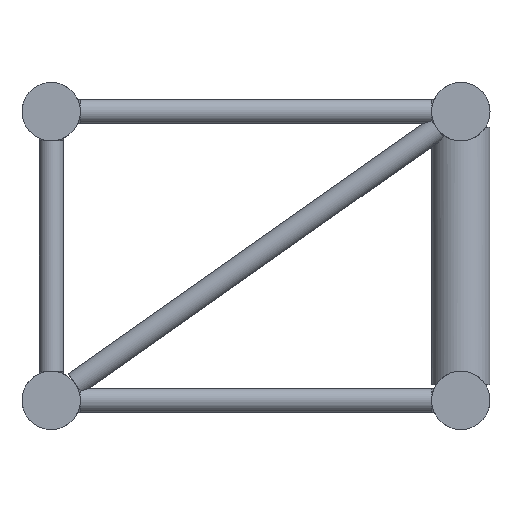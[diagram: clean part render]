
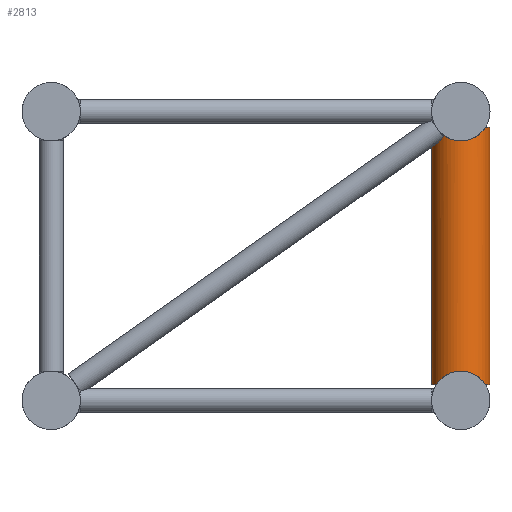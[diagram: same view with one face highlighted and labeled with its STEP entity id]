
A CAD part, left-side view. The second image highlights one B-rep face of the part: STEP entity #2813.
In plain terms, the highlighted cylindrical face has radius 24.15 mm (diameter 48.3 mm), a full revolution.
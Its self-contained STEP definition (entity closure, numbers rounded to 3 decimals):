
#271=FACE_BOUND('',#684,.T.);
#481=FACE_OUTER_BOUND('',#683,.T.);
#683=EDGE_LOOP('',(#2108,#2109,#2110,#2111,#2112,#2113));
#684=EDGE_LOOP('',(#2114,#2115,#2116,#2117));
#946=CIRCLE('',#2970,24.15);
#985=CIRCLE('',#3093,24.15);
#986=CIRCLE('',#3095,24.15);
#987=CIRCLE('',#3097,24.15);
#1056=ELLIPSE('',#2947,41.912,24.15);
#1076=ELLIPSE('',#2988,34.153,24.15);
#1077=ELLIPSE('',#2989,34.153,24.15);
#1094=ELLIPSE('',#3099,34.153,24.15);
#1095=ELLIPSE('',#3100,34.153,24.15);
#1122=B_SPLINE_CURVE_WITH_KNOTS('',3,(#4191,#4192,#4193,#4194,#4195,#4196,
#4197,#4198,#4199,#4200,#4201,#4202,#4203,#4204,#4205,#4206,#4207,#4208,
#4209,#4210,#4211,#4212),.UNSPECIFIED.,.F.,.F.,(4,2,2,2,2,2,2,2,2,2,4),
(1.619,2.098,2.448,2.797,2.963,
3.129,3.294,3.46,3.868,4.276,
4.635),.UNSPECIFIED.);
#1230=VERTEX_POINT('',#4168);
#1231=VERTEX_POINT('',#4169);
#1239=VERTEX_POINT('',#4189);
#1249=VERTEX_POINT('',#4249);
#1280=VERTEX_POINT('',#4677);
#1281=VERTEX_POINT('',#4679);
#1330=VERTEX_POINT('',#4859);
#1331=VERTEX_POINT('',#4860);
#1332=VERTEX_POINT('',#4864);
#1333=VERTEX_POINT('',#4865);
#1498=EDGE_CURVE('',#1230,#1231,#1056,.T.);
#1507=EDGE_CURVE('',#1231,#1239,#1122,.T.);
#1525=EDGE_CURVE('',#1249,#1239,#946,.T.);
#1558=EDGE_CURVE('',#1230,#1280,#1076,.T.);
#1560=EDGE_CURVE('',#1281,#1249,#1077,.T.);
#1640=EDGE_CURVE('',#1330,#1331,#985,.T.);
#1642=EDGE_CURVE('',#1332,#1333,#986,.T.);
#1643=EDGE_CURVE('',#1280,#1281,#987,.T.);
#1644=EDGE_CURVE('',#1333,#1330,#1094,.T.);
#1645=EDGE_CURVE('',#1331,#1332,#1095,.T.);
#2108=ORIENTED_EDGE('',*,*,#1507,.T.);
#2109=ORIENTED_EDGE('',*,*,#1525,.F.);
#2110=ORIENTED_EDGE('',*,*,#1560,.F.);
#2111=ORIENTED_EDGE('',*,*,#1643,.F.);
#2112=ORIENTED_EDGE('',*,*,#1558,.F.);
#2113=ORIENTED_EDGE('',*,*,#1498,.T.);
#2114=ORIENTED_EDGE('',*,*,#1644,.F.);
#2115=ORIENTED_EDGE('',*,*,#1642,.F.);
#2116=ORIENTED_EDGE('',*,*,#1645,.F.);
#2117=ORIENTED_EDGE('',*,*,#1640,.F.);
#2526=CYLINDRICAL_SURFACE('',#3098,24.15);
#2813=ADVANCED_FACE('',(#481,#271),#2526,.T.);
#2947=AXIS2_PLACEMENT_3D('',#4170,#3354,#3355);
#2970=AXIS2_PLACEMENT_3D('',#4251,#3408,#3409);
#2988=AXIS2_PLACEMENT_3D('',#4678,#3452,#3453);
#2989=AXIS2_PLACEMENT_3D('',#4681,#3455,#3456);
#3093=AXIS2_PLACEMENT_3D('',#4862,#3690,#3691);
#3095=AXIS2_PLACEMENT_3D('',#4867,#3695,#3696);
#3097=AXIS2_PLACEMENT_3D('',#4869,#3699,#3700);
#3098=AXIS2_PLACEMENT_3D('',#4870,#3701,#3702);
#3099=AXIS2_PLACEMENT_3D('',#4871,#3703,#3704);
#3100=AXIS2_PLACEMENT_3D('',#4872,#3705,#3706);
#3354=DIRECTION('center_axis',(0.,-0.817,
0.576));
#3355=DIRECTION('ref_axis',(0.,-0.576,-0.817));
#3408=DIRECTION('center_axis',(0.,0.,1.));
#3409=DIRECTION('ref_axis',(-1.,0.,0.));
#3452=DIRECTION('center_axis',(-0.707,0.,0.707));
#3453=DIRECTION('ref_axis',(-0.707,0.,-0.707));
#3455=DIRECTION('center_axis',(0.707,0.,0.707));
#3456=DIRECTION('ref_axis',(-0.707,0.,0.707));
#3690=DIRECTION('center_axis',(0.,0.,-1.));
#3691=DIRECTION('ref_axis',(-1.,0.,0.));
#3695=DIRECTION('center_axis',(0.,0.,-1.));
#3696=DIRECTION('ref_axis',(-1.,0.,0.));
#3699=DIRECTION('center_axis',(0.,0.,1.));
#3700=DIRECTION('ref_axis',(-1.,0.,0.));
#3701=DIRECTION('center_axis',(0.,0.,1.));
#3702=DIRECTION('ref_axis',(-1.,0.,0.));
#3703=DIRECTION('center_axis',(0.707,0.,-0.707));
#3704=DIRECTION('ref_axis',(-0.707,0.,-0.707));
#3705=DIRECTION('center_axis',(-0.707,0.,-0.707));
#3706=DIRECTION('ref_axis',(-0.707,0.,0.707));
#4168=CARTESIAN_POINT('',(57.303,17.304,-16.847));
#4169=CARTESIAN_POINT('',(54.872,14.545,-20.759));
#4170=CARTESIAN_POINT('Origin',(74.15,0.,-41.39));
#4189=CARTESIAN_POINT('',(69.566,23.711,-13.15));
#4191=CARTESIAN_POINT('Ctrl Pts',(54.872,14.545,-20.759));
#4192=CARTESIAN_POINT('Ctrl Pts',(55.539,15.43,-21.871));
#4193=CARTESIAN_POINT('Ctrl Pts',(56.282,16.29,-22.894));
#4194=CARTESIAN_POINT('Ctrl Pts',(57.74,17.739,-24.451));
#4195=CARTESIAN_POINT('Ctrl Pts',(58.405,18.336,-25.041));
#4196=CARTESIAN_POINT('Ctrl Pts',(59.897,19.519,-26.03));
#4197=CARTESIAN_POINT('Ctrl Pts',(60.719,20.104,-26.438));
#4198=CARTESIAN_POINT('Ctrl Pts',(62.167,20.975,-26.746));
#4199=CARTESIAN_POINT('Ctrl Pts',(62.666,21.252,-26.794));
#4200=CARTESIAN_POINT('Ctrl Pts',(63.682,21.771,-26.743));
#4201=CARTESIAN_POINT('Ctrl Pts',(64.199,22.011,-26.644));
#4202=CARTESIAN_POINT('Ctrl Pts',(65.2,22.437,-26.293));
#4203=CARTESIAN_POINT('Ctrl Pts',(65.685,22.623,-26.039));
#4204=CARTESIAN_POINT('Ctrl Pts',(66.582,22.938,-25.41));
#4205=CARTESIAN_POINT('Ctrl Pts',(66.993,23.068,-25.034));
#4206=CARTESIAN_POINT('Ctrl Pts',(68.242,23.435,-23.633));
#4207=CARTESIAN_POINT('Ctrl Pts',(68.924,23.582,-22.355));
#4208=CARTESIAN_POINT('Ctrl Pts',(69.805,23.76,-19.606));
#4209=CARTESIAN_POINT('Ctrl Pts',(70.,23.791,-18.133));
#4210=CARTESIAN_POINT('Ctrl Pts',(70.,23.791,-15.575));
#4211=CARTESIAN_POINT('Ctrl Pts',(69.855,23.767,-14.351));
#4212=CARTESIAN_POINT('Ctrl Pts',(69.566,23.711,-13.15));
#4249=CARTESIAN_POINT('',(87.3,20.256,-13.15));
#4251=CARTESIAN_POINT('Origin',(74.15,0.,-13.15));
#4677=CARTESIAN_POINT('',(61.,-20.256,-13.15));
#4678=CARTESIAN_POINT('Origin',(74.15,0.,0.));
#4679=CARTESIAN_POINT('',(87.3,-20.256,-13.15));
#4681=CARTESIAN_POINT('Origin',(74.15,0.,0.));
#4859=CARTESIAN_POINT('',(87.3,-20.256,-225.85));
#4860=CARTESIAN_POINT('',(61.,-20.256,-225.85));
#4862=CARTESIAN_POINT('Origin',(74.15,0.,-225.85));
#4864=CARTESIAN_POINT('',(61.,20.256,-225.85));
#4865=CARTESIAN_POINT('',(87.3,20.256,-225.85));
#4867=CARTESIAN_POINT('Origin',(74.15,0.,-225.85));
#4869=CARTESIAN_POINT('Origin',(74.15,0.,-13.15));
#4870=CARTESIAN_POINT('Origin',(74.15,0.,-225.85));
#4871=CARTESIAN_POINT('Origin',(74.15,0.,-239.));
#4872=CARTESIAN_POINT('Origin',(74.15,0.,-239.));
